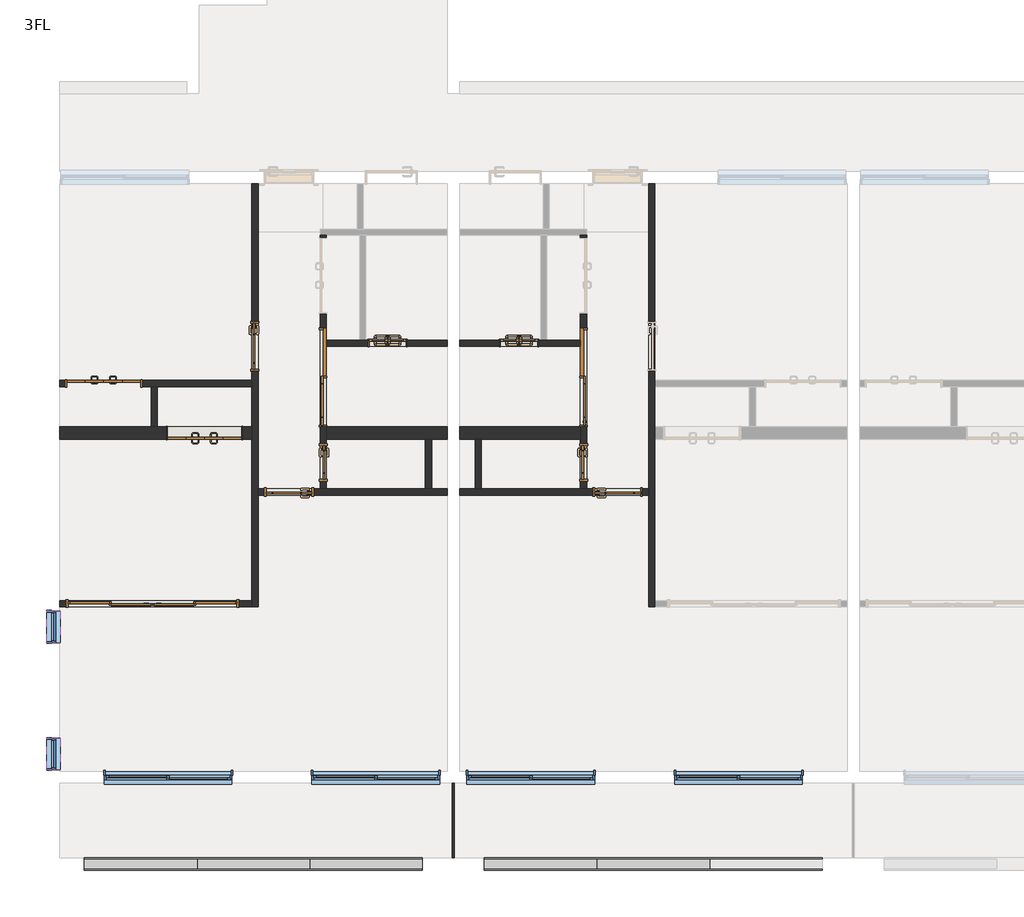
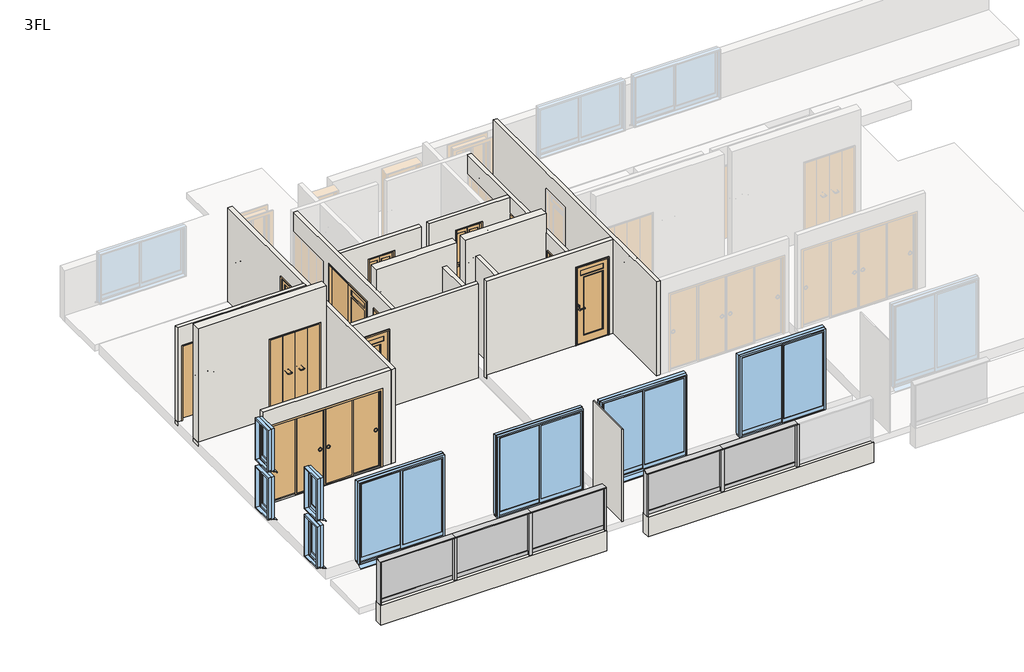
# One storey, part 1 of 3: 19 walls, 12 doors, 12 members, 8 windows, 5 plates.
"""IFC4 building model written with IfcOpenShell, lengths in millimetres."""

from ifc_helpers import new_model, si_unit, frame, origin, place, context, project, spatial, polyline, outline, extrude, faceted_brep, transform, mapped, element, save
from components import door_1200x2000_98cacc9b, door_1200x2000_6a144d60, door_1600x2000_09a7ee27, door_1600x2000_1f5bdc43, door_2800x2000_670b855b, door_600x2000_7f2747f4, door_600x2000_6a266bef, door_600x2000_8ea70a65, door_600x2000_94bb9c3c, door_800x2000_13e9f519, door_800x2000_ccb03061, member_25x150_3f8205e2, member_25x150_e252ec85, member_25x150_8b8be5b9, member_70x150_851c8a9b, plate_5aac5250, plate_977e9fc7, window_2000x2000_f1ff98da, window_450x1000_e0a5e2da, window_450x1000_1cddc73c

model = new_model("IFC4")

# Units and contexts
model_context = context("Model", 3, world=origin())
ifc_project = project(units=[si_unit("LENGTHUNIT", "METRE", prefix="MILLI")], contexts=[model_context])

# Site, building, storey
site = spatial("IfcSite", under=ifc_project)
building = spatial("IfcBuilding", under=site)
storey = spatial("IfcBuildingStorey", under=building, Name="3FL", Elevation=7000.0)

# Doors
placement = place(None, origin())
door_1200x2000_shape = door_1200x2000_98cacc9b(model_context)
element("IfcDoor", 1, ObjectType="木製折戸 : 1200x2000", at=placement, inside=storey, context=model_context, shape_type="MappedRepresentation", body=[
    mapped(door_1200x2000_shape, transform((-8741.2187246, -9820.1171638, 7100.0), x_axis=(-1.0, 0.0, 0.0), y_axis=(0.0, -1.0, 0.0), z_axis=(0.0, 0.0, 1.0))),
])
door_1200x2000_2_shape = door_1200x2000_6a144d60(model_context)
element("IfcDoor", 2, ObjectType="木製折戸 : 1200x2000", at=placement, inside=storey, context=model_context, shape_type="MappedRepresentation", body=[
    mapped(door_1200x2000_2_shape, transform((-10366.2187246, -9020.1171638, 7000.0), x_axis=(1.0, 0.0, 0.0), y_axis=(0.0, 1.0, 0.0), z_axis=(0.0, 0.0, 1.0))),
])
door_1600x2000_shape = door_1600x2000_09a7ee27(model_context)
element("IfcDoor", 3, ObjectType="片引戸CL2017 : 1600x2000", at=placement, inside=storey, context=model_context, shape_type="MappedRepresentation", body=[
    mapped(door_1600x2000_shape, transform((-6828.7187246, -8920.1171638, 7100.0), x_axis=(0.0, -1.0, 0.0), y_axis=(1.0, 0.0, 0.0), z_axis=(0.0, 0.0, 1.0))),
])
door_1600x2000_2_shape = door_1600x2000_1f5bdc43(model_context)
element("IfcDoor", 4, ObjectType="片引戸CL2017 : 1600x2000", at=placement, inside=storey, context=model_context, shape_type="MappedRepresentation", body=[
    mapped(door_1600x2000_2_shape, transform((-2628.7187246, -8920.1171638, 7100.0), x_axis=(0.0, -1.0, 0.0), y_axis=(1.0, 0.0, 0.0), z_axis=(0.0, 0.0, 1.0))),
])
door_2800x2000_shape = door_2800x2000_670b855b(model_context)
element("IfcDoor", 5, ObjectType="引違い 4 枚 2 溝_襖 : 2800x2000", at=placement, inside=storey, context=model_context, shape_type="MappedRepresentation", body=[
    mapped(door_2800x2000_shape, transform((-9573.1832207, -12570.1171638, 7100.0), x_axis=(1.0, 0.0, 0.0), y_axis=(0.0, 1.0, 0.0), z_axis=(0.0, 0.0, 1.0))),
])
door_600x2000_shape = door_600x2000_7f2747f4(model_context)
element("IfcDoor", 6, ObjectType="片開き戸CL2058 : 600x2000", at=placement, inside=storey, context=model_context, shape_type="MappedRepresentation", body=[
    mapped(door_600x2000_shape, transform((-6828.7187246, -10295.1171638, 7100.0), x_axis=(0.0, -1.0, 0.0), y_axis=(1.0, 0.0, 0.0), z_axis=(0.0, 0.0, 1.0))),
])
door_600x2000_2_shape = door_600x2000_6a266bef(model_context)
element("IfcDoor", 7, ObjectType="浴室折戸 : 600x2000", at=placement, inside=storey, context=model_context, shape_type="MappedRepresentation", body=[
    mapped(door_600x2000_2_shape, transform((-5788.7187246, -8370.1171638, 7100.0), x_axis=(1.0, 0.0, 0.0), y_axis=(0.0, 1.0, 0.0), z_axis=(0.0, 0.0, 1.0))),
])
door_600x2000_3_shape = door_600x2000_8ea70a65(model_context)
element("IfcDoor", 8, ObjectType="片開き戸CL2058 : 600x2000", at=placement, inside=storey, context=model_context, shape_type="MappedRepresentation", body=[
    mapped(door_600x2000_3_shape, transform((-2628.7187246, -10295.1171638, 7100.0), x_axis=(0.0, -1.0, 0.0), y_axis=(1.0, 0.0, 0.0), z_axis=(0.0, 0.0, 1.0))),
])
door_600x2000_4_shape = door_600x2000_94bb9c3c(model_context)
element("IfcDoor", 9, ObjectType="浴室折戸 : 600x2000", at=placement, inside=storey, context=model_context, shape_type="MappedRepresentation", body=[
    mapped(door_600x2000_4_shape, transform((-3668.7187246, -8370.1171638, 7100.0), x_axis=(-1.0, 0.0, 0.0), y_axis=(0.0, -1.0, 0.0), z_axis=(0.0, 0.0, 1.0))),
])
door_800x2000_shape = door_800x2000_13e9f519(model_context)
element("IfcDoor", 10, ObjectType="片開き戸CL2058 : 800x2000", at=placement, inside=storey, context=model_context, shape_type="MappedRepresentation", body=[
    mapped(door_800x2000_shape, transform((-7928.7187246, -8420.1171638, 7100.0), x_axis=(0.0, -1.0, 0.0), y_axis=(1.0, 0.0, 0.0), z_axis=(0.0, 0.0, 1.0))),
])
element("IfcDoor", 11, ObjectType="片開き戸CL2058 : 800x2000", at=placement, inside=storey, context=model_context, shape_type="MappedRepresentation", body=[
    mapped(door_800x2000_shape, transform((-2078.7187246, -10770.1171638, 7100.0), x_axis=(1.0, 0.0, 0.0), y_axis=(0.0, 1.0, 0.0), z_axis=(0.0, 0.0, 1.0))),
])
door_800x2000_2_shape = door_800x2000_ccb03061(model_context)
element("IfcDoor", 12, ObjectType="片開き戸CL2058 : 800x2000", at=placement, inside=storey, context=model_context, shape_type="MappedRepresentation", body=[
    mapped(door_800x2000_2_shape, transform((-7378.7187246, -10770.1171638, 7100.0), x_axis=(-1.0, 0.0, 0.0), y_axis=(0.0, -1.0, 0.0), z_axis=(0.0, 0.0, 1.0))),
])

# Members
member_25x150_shape = member_25x150_3f8205e2(model_context)
element("IfcMember", 13, ObjectType="長方形のマリオン : 25x150", at=placement, inside=storey, context=model_context, shape_type="MappedRepresentation", body=[
    mapped(member_25x150_shape, transform((-5228.7187246, -16770.1171638, 7000.0), x_axis=(1.0, 0.0, 0.0), y_axis=(0.0, -1.0, 0.0), z_axis=(0.0, 0.0, -1.0))),
])
element("IfcMember", 14, ObjectType="長方形のマリオン : 25x150", at=placement, inside=storey, context=model_context, shape_type="MappedRepresentation", body=[
    mapped(member_25x150_shape, transform((-10678.7187246, -16770.1171638, 8075.0), x_axis=(-1.0, 0.0, 0.0), y_axis=(0.0, -1.0, 0.0), z_axis=(0.0, 0.0, 1.0))),
])
element("IfcMember", 15, ObjectType="長方形のマリオン : 25x150", at=placement, inside=storey, context=model_context, shape_type="MappedRepresentation", body=[
    mapped(member_25x150_shape, transform((-4228.7187246, -16770.1171638, 8075.0), x_axis=(-1.0, 0.0, 0.0), y_axis=(0.0, -1.0, 0.0), z_axis=(0.0, 0.0, 1.0))),
])
member_25x150_2_shape = member_25x150_e252ec85(model_context)
element("IfcMember", 16, ObjectType="長方形のマリオン : 25x150", at=placement, inside=storey, context=model_context, shape_type="MappedRepresentation", body=[
    mapped(member_25x150_2_shape, transform((-5228.7187246, -16770.1171638, 8100.0), x_axis=(0.0, 0.0, 1.0), y_axis=(0.0, -1.0, 0.0), z_axis=(1.0, 0.0, 0.0))),
])
element("IfcMember", 17, ObjectType="長方形のマリオン : 25x150", at=placement, inside=storey, context=model_context, shape_type="MappedRepresentation", body=[
    mapped(member_25x150_2_shape, transform((-8862.0520579, -16770.1171638, 8100.0), x_axis=(0.0, 0.0, 1.0), y_axis=(0.0, -1.0, 0.0), z_axis=(1.0, 0.0, 0.0))),
])
element("IfcMember", 18, ObjectType="長方形のマリオン : 25x150", at=placement, inside=storey, context=model_context, shape_type="MappedRepresentation", body=[
    mapped(member_25x150_2_shape, transform((-2412.0520579, -16770.1171638, 8100.0), x_axis=(0.0, 0.0, 1.0), y_axis=(0.0, -1.0, 0.0), z_axis=(1.0, 0.0, 0.0))),
])
member_25x150_3_shape = member_25x150_8b8be5b9(model_context)
element("IfcMember", 19, ObjectType="長方形のマリオン : 25x150", at=placement, inside=storey, context=model_context, shape_type="MappedRepresentation", body=[
    mapped(member_25x150_3_shape, transform((-7045.3853914, -16770.1171638, 8100.0), x_axis=(0.0, 0.0, 1.0), y_axis=(0.0, -1.0, 0.0), z_axis=(1.0, 0.0, 0.0))),
])
element("IfcMember", 20, ObjectType="長方形のマリオン : 25x150", at=placement, inside=storey, context=model_context, shape_type="MappedRepresentation", body=[
    mapped(member_25x150_3_shape, transform((-595.3853914, -16770.1171638, 8100.0), x_axis=(0.0, 0.0, 1.0), y_axis=(0.0, -1.0, 0.0), z_axis=(1.0, 0.0, 0.0))),
])
member_70x150_shape = member_70x150_851c8a9b(model_context)
element("IfcMember", 21, ObjectType="長方形のマリオン : 70x150", at=placement, inside=storey, context=model_context, shape_type="MappedRepresentation", body=[
    mapped(member_70x150_shape, transform((-8862.0520579, -16770.1171638, 7000.0), x_axis=(1.0, 0.0, 0.0), y_axis=(0.0, -1.0, 0.0), z_axis=(0.0, 0.0, -1.0))),
])
element("IfcMember", 22, ObjectType="長方形のマリオン : 70x150", at=placement, inside=storey, context=model_context, shape_type="MappedRepresentation", body=[
    mapped(member_70x150_shape, transform((-7045.3853914, -16770.1171638, 7000.0), x_axis=(1.0, 0.0, 0.0), y_axis=(0.0, -1.0, 0.0), z_axis=(0.0, 0.0, -1.0))),
])
element("IfcMember", 23, ObjectType="長方形のマリオン : 70x150", at=placement, inside=storey, context=model_context, shape_type="MappedRepresentation", body=[
    mapped(member_70x150_shape, transform((-2412.0520579, -16770.1171638, 7000.0), x_axis=(1.0, 0.0, 0.0), y_axis=(0.0, -1.0, 0.0), z_axis=(0.0, 0.0, -1.0))),
])
element("IfcMember", 24, ObjectType="長方形のマリオン : 70x150", at=placement, inside=storey, context=model_context, shape_type="MappedRepresentation", body=[
    mapped(member_70x150_shape, transform((-595.3853914, -16770.1171638, 7000.0), x_axis=(1.0, 0.0, 0.0), y_axis=(0.0, -1.0, 0.0), z_axis=(0.0, 0.0, -1.0))),
])

# Plates
plate_shape = plate_5aac5250(model_context)
element("IfcPlate", 25, ObjectType="r パネル FIX 下框付 : 框 H100", at=placement, inside=storey, context=model_context, shape_type="MappedRepresentation", body=[
    mapped(plate_shape, transform((-9775.3853913, -16770.1171638, 7000.0), x_axis=(1.0, 0.0, 0.0), y_axis=(0.0, 1.0, 0.0), z_axis=(0.0, 0.0, 1.0))),
])
element("IfcPlate", 26, ObjectType="r パネル FIX 下框付 : 框 H100", at=placement, inside=storey, context=model_context, shape_type="MappedRepresentation", body=[
    mapped(plate_shape, transform((-6132.052058, -16770.1171638, 7000.0), x_axis=(1.0, 0.0, 0.0), y_axis=(0.0, 1.0, 0.0), z_axis=(0.0, 0.0, 1.0))),
])
element("IfcPlate", 27, ObjectType="r パネル FIX 下框付 : 框 H100", at=placement, inside=storey, context=model_context, shape_type="MappedRepresentation", body=[
    mapped(plate_shape, transform((-3325.3853913, -16770.1171638, 7000.0), x_axis=(1.0, 0.0, 0.0), y_axis=(0.0, 1.0, 0.0), z_axis=(0.0, 0.0, 1.0))),
])
plate_2_shape = plate_977e9fc7(model_context)
element("IfcPlate", 28, ObjectType="r パネル FIX 下框付 : 框 H100", at=placement, inside=storey, context=model_context, shape_type="MappedRepresentation", body=[
    mapped(plate_2_shape, transform((-7953.7187246, -16770.1171638, 7000.0), x_axis=(1.0, 0.0, 0.0), y_axis=(0.0, 1.0, 0.0), z_axis=(0.0, 0.0, 1.0))),
])
element("IfcPlate", 29, ObjectType="r パネル FIX 下框付 : 框 H100", at=placement, inside=storey, context=model_context, shape_type="MappedRepresentation", body=[
    mapped(plate_2_shape, transform((-1503.7187246, -16770.1171638, 7000.0), x_axis=(1.0, 0.0, 0.0), y_axis=(0.0, 1.0, 0.0), z_axis=(0.0, 0.0, 1.0))),
])

# Walls
element("IfcWall", 30, ObjectType="(R)RC200", at=placement, inside=storey, context=model_context, shape_type="Brep", body=[
    faceted_brep([(-11078.7187246, -9920.1171638, 7000.0), (-7978.7187246, -9920.1171638, 7000.0), (-7978.7187246, -9920.1171638, 10000.0), (-11078.7187246, -9920.1171638, 10000.0), (-9361.2187246, -9920.1171638, 9120.0), (-8121.2187246, -9920.1171638, 9120.0), (-8121.2187246, -9920.1171638, 7100.0), (-9361.2187246, -9920.1171638, 7100.0), (-11078.7187246, -9720.1171638, 7000.0), (-11078.7187246, -9720.1171638, 10000.0), (-7978.7187246, -9720.1171638, 10000.0), (-7978.7187246, -9720.1171638, 7000.0), (-9503.7187246, -9720.1171638, 7000.0), (-9603.7187246, -9720.1171638, 7000.0), (-9361.2187246, -9720.1171638, 9120.0), (-9361.2187246, -9720.1171638, 7100.0), (-8121.2187246, -9720.1171638, 7100.0), (-8121.2187246, -9720.1171638, 9120.0)], [[[0, 1, 2, 3], [4, 5, 6, 7]], [[8, 9, 10, 11, 12, 13], [14, 15, 16, 17]], [[1, 0, 8, 13, 12, 11]], [[3, 2, 10, 9]], [[2, 1, 11, 10]], [[15, 14, 4, 7]], [[16, 15, 7, 6]], [[17, 16, 6, 5]], [[14, 17, 5, 4]], [[0, 3, 9, 8]]]),
])
element("IfcWall", 31, ObjectType="(R)RC200", at=placement, inside=storey, context=model_context, shape_type="Brep", body=[
    faceted_brep([(-6778.7187246, -9920.1171638, 7000.0), (-5178.7187246, -9920.1171638, 7000.0), (-5078.7187246, -9920.1171638, 7000.0), (-4828.7187246, -9920.1171638, 7000.0), (-4828.7187246, -9920.1171638, 10000.0), (-6778.7187246, -9920.1171638, 10000.0), (-6778.7187246, -9720.1171638, 7000.0), (-6778.7187246, -9720.1171638, 7100.0), (-6778.7187246, -9720.1171638, 9100.0), (-6778.7187246, -9720.1171638, 10000.0), (-4828.7187246, -9720.1171638, 10000.0), (-4828.7187246, -9720.1171638, 7000.0)], [[[0, 1, 2, 3, 4, 5]], [[6, 7, 8, 9, 10, 11]], [[3, 2, 1, 0, 6, 11]], [[5, 4, 10, 9]], [[0, 5, 9, 8, 7, 6]], [[4, 3, 11, 10]]]),
])
element("IfcWall", 32, ObjectType="(R)RC200", at=placement, inside=storey, context=model_context, shape_type="Brep", body=[
    faceted_brep([(-2678.7187246, -9720.1171638, 7000.0), (-4628.7187246, -9720.1171638, 7000.0), (-4628.7187246, -9720.1171638, 10000.0), (-2678.7187246, -9720.1171638, 10000.0), (-2678.7187246, -9720.1171638, 9100.0), (-2678.7187246, -9720.1171638, 7100.0), (-2678.7187246, -9920.1171638, 7000.0), (-2678.7187246, -9920.1171638, 10000.0), (-4628.7187246, -9920.1171638, 10000.0), (-4628.7187246, -9920.1171638, 7000.0), (-4378.7187246, -9920.1171638, 7000.0), (-4278.7187246, -9920.1171638, 7000.0)], [[[0, 1, 2, 3, 4, 5]], [[6, 7, 8, 9, 10, 11]], [[1, 0, 6, 11, 10, 9]], [[3, 2, 8, 7]], [[0, 5, 4, 3, 7, 6]], [[2, 1, 9, 8]]]),
])
element("IfcWall", 33, ObjectType="(R)RC200", at=placement, inside=storey, context=model_context, shape_type="SweptSolid", body=[
    extrude(outline(polyline([(-5228.7187246, -16870.1171638), (-10678.7187246, -16870.1171638), (-10678.7187246, -16670.1171638), (-5228.7187246, -16670.1171638), (-5228.7187246, -16870.1171638)])), frame((0.0, 0.0, 6500.0), z_axis=(0.0, 0.0, 1.0), x_axis=(1.0, 0.0, 0.0)), (0.0, 0.0, 1.0), 500.0),
])
element("IfcWall", 34, ObjectType="(R)RC200", at=placement, inside=storey, context=model_context, shape_type="SweptSolid", body=[
    extrude(outline(polyline([(1221.2812754, -16870.1171638), (-4228.7187246, -16870.1171638), (-4228.7187246, -16670.1171638), (1221.2812754, -16670.1171638), (1221.2812754, -16870.1171638)])), frame((0.0, 0.0, 6500.0), z_axis=(0.0, 0.0, 1.0), x_axis=(1.0, 0.0, 0.0)), (0.0, 0.0, 1.0), 500.0),
])
element("IfcWall", 35, ObjectType="(F)30", at=placement, inside=storey, context=model_context, shape_type="SweptSolid", body=[
    extrude(outline(polyline([(-4743.7187246, -16670.1171638), (-4743.7187246, -15470.1171638), (-4713.7187246, -15470.1171638), (-4713.7187246, -16670.1171638), (-4743.7187246, -16670.1171638)])), frame((0.0, 0.0, 6950.0), z_axis=(0.0, 0.0, 1.0), x_axis=(1.0, 0.0, 0.0)), (0.0, 0.0, 1.0), 2350.0),
])
element("IfcWall", 36, ObjectType="(L1)LGS100", at=placement, inside=storey, context=model_context, shape_type="Brep", body=[
    faceted_brep([(-7878.7187246, -12620.1171638, 7000.0), (-7878.7187246, -10820.1171638, 7000.0), (-7878.7187246, -10720.1171638, 7000.0), (-7878.7187246, -5800.1171638, 7000.0), (-7878.7187246, -5800.1171638, 9500.0), (-7878.7187246, -10720.1171638, 9500.0), (-7878.7187246, -10820.1171638, 9500.0), (-7878.7187246, -12620.1171638, 9500.0), (-7878.7187246, -8820.1171638, 7100.0), (-7878.7187246, -8820.1171638, 9100.0), (-7878.7187246, -8020.1171638, 9100.0), (-7878.7187246, -8020.1171638, 7100.0), (-7978.7187246, -12620.1171638, 7000.0), (-7978.7187246, -12620.1171638, 9500.0), (-7978.7187246, -12520.1171638, 9500.0), (-7978.7187246, -9070.1171638, 9500.0), (-7978.7187246, -8970.1171638, 9500.0), (-7978.7187246, -5800.1171638, 9500.0), (-7978.7187246, -5800.1171638, 7000.0), (-7978.7187246, -8970.1171638, 7000.0), (-7978.7187246, -9070.1171638, 7000.0), (-7978.7187246, -9720.1171638, 7000.0), (-7978.7187246, -9920.1171638, 7000.0), (-7978.7187246, -12520.1171638, 7000.0), (-7978.7187246, -8820.1171638, 7100.0), (-7978.7187246, -8020.1171638, 7100.0), (-7978.7187246, -8020.1171638, 9100.0), (-7978.7187246, -8820.1171638, 9100.0)], [[[0, 1, 2, 3, 4, 5, 6, 7], [8, 9, 10, 11]], [[12, 13, 14, 15, 16, 17, 18, 19, 20, 21, 22, 23], [24, 25, 26, 27]], [[3, 2, 1, 0, 12, 23, 22, 21, 20, 19, 18]], [[7, 6, 5, 4, 17, 16, 15, 14, 13]], [[0, 7, 13, 12]], [[9, 8, 24, 27]], [[10, 9, 27, 26]], [[11, 10, 26, 25]], [[8, 11, 25, 24]], [[4, 3, 18, 17]]]),
])
element("IfcWall", 37, ObjectType="(L1)LGS100", at=placement, inside=storey, context=model_context, shape_type="Brep", body=[
    faceted_brep([(-6778.7187246, -6630.1171638, 9500.0), (-6778.7187246, -8320.1171638, 9500.0), (-6778.7187246, -8420.1171638, 9500.0), (-6778.7187246, -10720.1171638, 9500.0), (-6778.7187246, -10720.1171638, 7000.0), (-6778.7187246, -9920.1171638, 7000.0), (-6778.7187246, -9720.1171638, 7000.0), (-6778.7187246, -8420.1171638, 7000.0), (-6778.7187246, -8320.1171638, 7000.0), (-6778.7187246, -7900.1171638, 7000.0), (-6778.7187246, -7900.1171638, 9020.0), (-6778.7187246, -6660.1171638, 9020.0), (-6778.7187246, -6660.1171638, 7000.0), (-6778.7187246, -6630.1171638, 7000.0), (-6778.7187246, -10595.1171638, 7100.0), (-6778.7187246, -10595.1171638, 9100.0), (-6778.7187246, -9995.1171638, 9100.0), (-6778.7187246, -9995.1171638, 7100.0), (-6778.7187246, -9720.1171638, 7100.0), (-6778.7187246, -9720.1171638, 9100.0), (-6778.7187246, -8120.1171638, 9100.0), (-6778.7187246, -8120.1171638, 7100.0), (-6878.7187246, -10720.1171638, 9500.0), (-6878.7187246, -6630.1171638, 9500.0), (-6878.7187246, -6630.1171638, 7000.0), (-6878.7187246, -6660.1171638, 7000.0), (-6878.7187246, -6660.1171638, 9020.0), (-6878.7187246, -7900.1171638, 9020.0), (-6878.7187246, -7900.1171638, 7000.0), (-6878.7187246, -10720.1171638, 7000.0), (-6878.7187246, -10595.1171638, 7100.0), (-6878.7187246, -9995.1171638, 7100.0), (-6878.7187246, -9995.1171638, 9100.0), (-6878.7187246, -10595.1171638, 9100.0), (-6878.7187246, -9720.1171638, 9100.0), (-6878.7187246, -9720.1171638, 7100.0), (-6878.7187246, -8120.1171638, 7100.0), (-6878.7187246, -8120.1171638, 9100.0)], [[[0, 1, 2, 3, 4, 5, 6, 7, 8, 9, 10, 11, 12, 13], [14, 15, 16, 17], [18, 19, 20, 21]], [[22, 23, 24, 25, 26, 27, 28, 29], [30, 31, 32, 33], [34, 35, 36, 37]], [[4, 29, 28, 9, 8, 7, 6, 5]], [[24, 13, 12, 25]], [[3, 2, 1, 0, 23, 22]], [[4, 3, 22, 29]], [[0, 13, 24, 23]], [[15, 14, 30, 33]], [[16, 15, 33, 32]], [[17, 16, 32, 31]], [[14, 17, 31, 30]], [[18, 35, 34, 19]], [[19, 34, 37, 20]], [[20, 37, 36, 21]], [[35, 18, 21, 36]], [[12, 11, 26, 25]], [[10, 9, 28, 27]], [[11, 10, 27, 26]]]),
])
element("IfcWall", 38, ObjectType="(L1)LGS100", at=placement, inside=storey, context=model_context, shape_type="Brep", body=[
    faceted_brep([(-6778.7187246, -8420.1171638, 7000.0), (-4828.7187246, -8420.1171638, 7000.0), (-4828.7187246, -8420.1171638, 9500.0), (-6778.7187246, -8420.1171638, 9500.0), (-5468.7187246, -8420.1171638, 9120.0), (-5468.7187246, -8420.1171638, 7100.0), (-6108.7187246, -8420.1171638, 7100.0), (-6108.7187246, -8420.1171638, 9120.0), (-6778.7187246, -8320.1171638, 7000.0), (-6778.7187246, -8320.1171638, 9500.0), (-6238.7187246, -8320.1171638, 9500.0), (-6138.7187246, -8320.1171638, 9500.0), (-4828.7187246, -8320.1171638, 9500.0), (-4828.7187246, -8320.1171638, 7000.0), (-6138.7187246, -8320.1171638, 7000.0), (-6238.7187246, -8320.1171638, 7000.0), (-5468.7187246, -8320.1171638, 9120.0), (-6108.7187246, -8320.1171638, 9120.0), (-6108.7187246, -8320.1171638, 7100.0), (-5468.7187246, -8320.1171638, 7100.0)], [[[0, 1, 2, 3], [4, 5, 6, 7]], [[8, 9, 10, 11, 12, 13, 14, 15], [16, 17, 18, 19]], [[1, 0, 8, 15, 14, 13]], [[3, 2, 12, 11, 10, 9]], [[0, 3, 9, 8]], [[5, 4, 16, 19]], [[6, 5, 19, 18]], [[7, 6, 18, 17]], [[4, 7, 17, 16]], [[2, 1, 13, 12]]]),
])
element("IfcWall", 39, ObjectType="(L1)LGS100", at=placement, inside=storey, context=model_context, shape_type="Brep", body=[
    faceted_brep([(-7878.7187246, -10820.1171638, 7000.0), (-4828.7187246, -10820.1171638, 7000.0), (-4828.7187246, -10820.1171638, 9500.0), (-7878.7187246, -10820.1171638, 9500.0), (-7778.7187246, -10820.1171638, 7100.0), (-7778.7187246, -10820.1171638, 9100.0), (-6978.7187246, -10820.1171638, 9100.0), (-6978.7187246, -10820.1171638, 7100.0), (-7878.7187246, -10720.1171638, 7000.0), (-7878.7187246, -10720.1171638, 9500.0), (-6878.7187246, -10720.1171638, 9500.0), (-6778.7187246, -10720.1171638, 9500.0), (-5178.7187246, -10720.1171638, 9500.0), (-5078.7187246, -10720.1171638, 9500.0), (-4828.7187246, -10720.1171638, 9500.0), (-4828.7187246, -10720.1171638, 7000.0), (-5078.7187246, -10720.1171638, 7000.0), (-5178.7187246, -10720.1171638, 7000.0), (-6778.7187246, -10720.1171638, 7000.0), (-6878.7187246, -10720.1171638, 7000.0), (-7778.7187246, -10720.1171638, 7100.0), (-6978.7187246, -10720.1171638, 7100.0), (-6978.7187246, -10720.1171638, 9100.0), (-7778.7187246, -10720.1171638, 9100.0)], [[[0, 1, 2, 3], [4, 5, 6, 7]], [[8, 9, 10, 11, 12, 13, 14, 15, 16, 17, 18, 19], [20, 21, 22, 23]], [[1, 0, 8, 19, 18, 17, 16, 15]], [[3, 2, 14, 13, 12, 11, 10, 9]], [[0, 3, 9, 8]], [[5, 4, 20, 23]], [[6, 5, 23, 22]], [[7, 6, 22, 21]], [[4, 7, 21, 20]], [[2, 1, 15, 14]]]),
])
element("IfcWall", 40, ObjectType="(L1)LGS100", at=placement, inside=storey, context=model_context, shape_type="SweptSolid", body=[
    extrude(outline(polyline([(-5078.7187246, -9920.1171638), (-5078.7187246, -10720.1171638), (-5178.7187246, -10720.1171638), (-5178.7187246, -9920.1171638), (-5078.7187246, -9920.1171638)])), frame((0.0, 0.0, 7000.0), z_axis=(0.0, 0.0, 1.0), x_axis=(1.0, 0.0, 0.0)), (0.0, 0.0, 1.0), 2500.0),
])
element("IfcWall", 41, ObjectType="(L1)LGS100", at=placement, inside=storey, context=model_context, shape_type="Brep", body=[
    faceted_brep([(-11078.7187246, -9070.1171638, 7000.0), (-10986.2187246, -9070.1171638, 7000.0), (-10986.2187246, -9070.1171638, 9020.0), (-9746.2187246, -9070.1171638, 9020.0), (-9746.2187246, -9070.1171638, 7000.0), (-9603.7187246, -9070.1171638, 7000.0), (-9503.7187246, -9070.1171638, 7000.0), (-7978.7187246, -9070.1171638, 7000.0), (-7978.7187246, -9070.1171638, 9500.0), (-9503.7187246, -9070.1171638, 9500.0), (-9603.7187246, -9070.1171638, 9500.0), (-11078.7187246, -9070.1171638, 9500.0), (-10986.2187246, -8970.1171638, 9020.0), (-10986.2187246, -8970.1171638, 7000.0), (-11078.7187246, -8970.1171638, 7000.0), (-11078.7187246, -8970.1171638, 9500.0), (-7978.7187246, -8970.1171638, 9500.0), (-7978.7187246, -8970.1171638, 7000.0), (-9746.2187246, -8970.1171638, 7000.0), (-9746.2187246, -8970.1171638, 9020.0)], [[[0, 1, 2, 3, 4, 5, 6, 7, 8, 9, 10, 11]], [[12, 13, 14, 15, 16, 17, 18, 19]], [[18, 17, 7, 6, 5, 4]], [[14, 13, 1, 0]], [[11, 10, 9, 8, 16, 15]], [[8, 7, 17, 16]], [[4, 3, 19, 18]], [[2, 1, 13, 12]], [[3, 2, 12, 19]], [[0, 11, 15, 14]]]),
])
element("IfcWall", 42, ObjectType="(L1)LGS100", at=placement, inside=storey, context=model_context, shape_type="SweptSolid", body=[
    extrude(outline(polyline([(-9503.7187246, -9070.1171638), (-9503.7187246, -9720.1171638), (-9603.7187246, -9720.1171638), (-9603.7187246, -9070.1171638), (-9503.7187246, -9070.1171638)])), frame((0.0, 0.0, 7000.0), z_axis=(0.0, 0.0, 1.0), x_axis=(1.0, 0.0, 0.0)), (0.0, 0.0, 1.0), 2500.0),
])
element("IfcWall", 43, ObjectType="(L1)LGS100", at=placement, inside=storey, context=model_context, shape_type="SweptSolid", body=[
    extrude(outline(polyline([(7000.0, -11078.7187246), (7000.0, -7978.7187246), (9500.0, -7978.7187246), (9500.0, -11078.7187246), (7000.0, -11078.7187246)]), holes=[polyline([(9100.0, -8178.7187246), (7100.0, -8178.7187246), (7100.0, -10978.7187246), (9100.0, -10978.7187246), (9100.0, -8178.7187246)])]), frame((0.0, -12620.1171638, 0.0), z_axis=(0.0, 1.0, 0.0), x_axis=(0.0, 0.0, 1.0)), (0.0, 0.0, 1.0), 100.0),
])
element("IfcWall", 44, ObjectType="(L1)LGS100", at=placement, inside=storey, context=model_context, shape_type="Brep", body=[
    faceted_brep([(-1478.7187246, -12620.1171638, 7000.0), (-1478.7187246, -12520.1171638, 7000.0), (-1478.7187246, -9920.1171638, 7000.0), (-1478.7187246, -9720.1171638, 7000.0), (-1478.7187246, -9070.1171638, 7000.0), (-1478.7187246, -8970.1171638, 7000.0), (-1478.7187246, -5800.1171638, 7000.0), (-1478.7187246, -5800.1171638, 9500.0), (-1478.7187246, -8970.1171638, 9500.0), (-1478.7187246, -9070.1171638, 9500.0), (-1478.7187246, -12520.1171638, 9500.0), (-1478.7187246, -12620.1171638, 9500.0), (-1478.7187246, -8820.1171638, 7100.0), (-1478.7187246, -8820.1171638, 9100.0), (-1478.7187246, -8020.1171638, 9100.0), (-1478.7187246, -8020.1171638, 7100.0), (-1578.7187246, -12620.1171638, 7000.0), (-1578.7187246, -12620.1171638, 9500.0), (-1578.7187246, -10820.1171638, 9500.0), (-1578.7187246, -10720.1171638, 9500.0), (-1578.7187246, -5800.1171638, 9500.0), (-1578.7187246, -5800.1171638, 7000.0), (-1578.7187246, -10720.1171638, 7000.0), (-1578.7187246, -10820.1171638, 7000.0), (-1578.7187246, -8820.1171638, 7100.0), (-1578.7187246, -8020.1171638, 7100.0), (-1578.7187246, -8020.1171638, 9100.0), (-1578.7187246, -8820.1171638, 9100.0)], [[[0, 1, 2, 3, 4, 5, 6, 7, 8, 9, 10, 11], [12, 13, 14, 15]], [[16, 17, 18, 19, 20, 21, 22, 23], [24, 25, 26, 27]], [[6, 5, 4, 3, 2, 1, 0, 16, 23, 22, 21]], [[11, 10, 9, 8, 7, 20, 19, 18, 17]], [[13, 12, 24, 27]], [[14, 13, 27, 26]], [[15, 14, 26, 25]], [[12, 15, 25, 24]], [[0, 11, 17, 16]], [[7, 6, 21, 20]]]),
])
element("IfcWall", 45, ObjectType="(L1)LGS100", at=placement, inside=storey, context=model_context, shape_type="Brep", body=[
    faceted_brep([(-2578.7187246, -6630.1171638, 9500.0), (-2578.7187246, -10720.1171638, 9500.0), (-2578.7187246, -10720.1171638, 7000.0), (-2578.7187246, -7900.1171638, 7000.0), (-2578.7187246, -7900.1171638, 9020.0), (-2578.7187246, -6660.1171638, 9020.0), (-2578.7187246, -6660.1171638, 7000.0), (-2578.7187246, -6630.1171638, 7000.0), (-2578.7187246, -10595.1171638, 7100.0), (-2578.7187246, -10595.1171638, 9100.0), (-2578.7187246, -9995.1171638, 9100.0), (-2578.7187246, -9995.1171638, 7100.0), (-2578.7187246, -9720.1171638, 7100.0), (-2578.7187246, -9720.1171638, 9100.0), (-2578.7187246, -8120.1171638, 9100.0), (-2578.7187246, -8120.1171638, 7100.0), (-2678.7187246, -10720.1171638, 9500.0), (-2678.7187246, -8420.1171638, 9500.0), (-2678.7187246, -8320.1171638, 9500.0), (-2678.7187246, -6630.1171638, 9500.0), (-2678.7187246, -6630.1171638, 7000.0), (-2678.7187246, -6660.1171638, 7000.0), (-2678.7187246, -6660.1171638, 9020.0), (-2678.7187246, -7900.1171638, 9020.0), (-2678.7187246, -7900.1171638, 7000.0), (-2678.7187246, -8320.1171638, 7000.0), (-2678.7187246, -8420.1171638, 7000.0), (-2678.7187246, -9720.1171638, 7000.0), (-2678.7187246, -9920.1171638, 7000.0), (-2678.7187246, -10720.1171638, 7000.0), (-2678.7187246, -10595.1171638, 7100.0), (-2678.7187246, -9995.1171638, 7100.0), (-2678.7187246, -9995.1171638, 9100.0), (-2678.7187246, -10595.1171638, 9100.0), (-2678.7187246, -9720.1171638, 9100.0), (-2678.7187246, -9720.1171638, 7100.0), (-2678.7187246, -8120.1171638, 7100.0), (-2678.7187246, -8120.1171638, 9100.0)], [[[0, 1, 2, 3, 4, 5, 6, 7], [8, 9, 10, 11], [12, 13, 14, 15]], [[16, 17, 18, 19, 20, 21, 22, 23, 24, 25, 26, 27, 28, 29], [30, 31, 32, 33], [34, 35, 36, 37]], [[6, 21, 20, 7]], [[24, 3, 2, 29, 28, 27, 26, 25]], [[1, 0, 19, 18, 17, 16]], [[9, 8, 30, 33]], [[10, 9, 33, 32]], [[11, 10, 32, 31]], [[8, 11, 31, 30]], [[12, 35, 34, 13]], [[13, 34, 37, 14]], [[14, 37, 36, 15]], [[35, 12, 15, 36]], [[6, 5, 22, 21]], [[4, 3, 24, 23]], [[5, 4, 23, 22]], [[2, 1, 16, 29]], [[0, 7, 20, 19]]]),
])
element("IfcWall", 46, ObjectType="(L1)LGS100", at=placement, inside=storey, context=model_context, shape_type="Brep", body=[
    faceted_brep([(-2678.7187246, -8320.1171638, 7000.0), (-3218.7187246, -8320.1171638, 7000.0), (-3318.7187246, -8320.1171638, 7000.0), (-4628.7187246, -8320.1171638, 7000.0), (-4628.7187246, -8320.1171638, 9500.0), (-3318.7187246, -8320.1171638, 9500.0), (-3218.7187246, -8320.1171638, 9500.0), (-2678.7187246, -8320.1171638, 9500.0), (-3988.7187246, -8320.1171638, 9120.0), (-3988.7187246, -8320.1171638, 7100.0), (-3348.7187246, -8320.1171638, 7100.0), (-3348.7187246, -8320.1171638, 9120.0), (-2678.7187246, -8420.1171638, 7000.0), (-2678.7187246, -8420.1171638, 9500.0), (-4628.7187246, -8420.1171638, 9500.0), (-4628.7187246, -8420.1171638, 7000.0), (-3988.7187246, -8420.1171638, 9120.0), (-3348.7187246, -8420.1171638, 9120.0), (-3348.7187246, -8420.1171638, 7100.0), (-3988.7187246, -8420.1171638, 7100.0)], [[[0, 1, 2, 3, 4, 5, 6, 7], [8, 9, 10, 11]], [[12, 13, 14, 15], [16, 17, 18, 19]], [[3, 2, 1, 0, 12, 15]], [[7, 6, 5, 4, 14, 13]], [[9, 8, 16, 19]], [[10, 9, 19, 18]], [[11, 10, 18, 17]], [[8, 11, 17, 16]], [[0, 7, 13, 12]], [[4, 3, 15, 14]]]),
])
element("IfcWall", 47, ObjectType="(L1)LGS100", at=placement, inside=storey, context=model_context, shape_type="Brep", body=[
    faceted_brep([(-1578.7187246, -10720.1171638, 7000.0), (-2578.7187246, -10720.1171638, 7000.0), (-2678.7187246, -10720.1171638, 7000.0), (-4278.7187246, -10720.1171638, 7000.0), (-4378.7187246, -10720.1171638, 7000.0), (-4628.7187246, -10720.1171638, 7000.0), (-4628.7187246, -10720.1171638, 9500.0), (-4378.7187246, -10720.1171638, 9500.0), (-4278.7187246, -10720.1171638, 9500.0), (-2678.7187246, -10720.1171638, 9500.0), (-2578.7187246, -10720.1171638, 9500.0), (-1578.7187246, -10720.1171638, 9500.0), (-1678.7187246, -10720.1171638, 7100.0), (-1678.7187246, -10720.1171638, 9100.0), (-2478.7187246, -10720.1171638, 9100.0), (-2478.7187246, -10720.1171638, 7100.0), (-1578.7187246, -10820.1171638, 7000.0), (-1578.7187246, -10820.1171638, 9500.0), (-4628.7187246, -10820.1171638, 9500.0), (-4628.7187246, -10820.1171638, 7000.0), (-1678.7187246, -10820.1171638, 7100.0), (-2478.7187246, -10820.1171638, 7100.0), (-2478.7187246, -10820.1171638, 9100.0), (-1678.7187246, -10820.1171638, 9100.0)], [[[0, 1, 2, 3, 4, 5, 6, 7, 8, 9, 10, 11], [12, 13, 14, 15]], [[16, 17, 18, 19], [20, 21, 22, 23]], [[5, 4, 3, 2, 1, 0, 16, 19]], [[11, 10, 9, 8, 7, 6, 18, 17]], [[13, 12, 20, 23]], [[14, 13, 23, 22]], [[15, 14, 22, 21]], [[12, 15, 21, 20]], [[0, 11, 17, 16]], [[6, 5, 19, 18]]]),
])
element("IfcWall", 48, ObjectType="(L1)LGS100", at=placement, inside=storey, context=model_context, shape_type="SweptSolid", body=[
    extrude(outline(polyline([(-4278.7187246, -9920.1171638), (-4278.7187246, -10720.1171638), (-4378.7187246, -10720.1171638), (-4378.7187246, -9920.1171638), (-4278.7187246, -9920.1171638)])), frame((0.0, 0.0, 7000.0), z_axis=(0.0, 0.0, 1.0), x_axis=(1.0, 0.0, 0.0)), (0.0, 0.0, 1.0), 2500.0),
])

# Windows
window_2000x2000_shape = window_2000x2000_f1ff98da(model_context)
element("IfcWindow", 49, ObjectType="鋼製_一般枠_引違い-二枚 : 2000x2000", at=placement, inside=storey, context=model_context, shape_type="MappedRepresentation", body=[
    mapped(window_2000x2000_shape, transform((-9328.7187246, -15370.1171638, 6200.0), x_axis=(-1.0, 0.0, 0.0), y_axis=(0.0, -1.0, 0.0), z_axis=(0.0, 0.0, 1.0))),
])
element("IfcWindow", 50, ObjectType="鋼製_一般枠_引違い-二枚 : 2000x2000", at=placement, inside=storey, context=model_context, shape_type="MappedRepresentation", body=[
    mapped(window_2000x2000_shape, transform((-5978.7187246, -15370.1171638, 6200.0), x_axis=(-1.0, 0.0, 0.0), y_axis=(0.0, -1.0, 0.0), z_axis=(0.0, 0.0, 1.0))),
])
element("IfcWindow", 51, ObjectType="鋼製_一般枠_引違い-二枚 : 2000x2000", at=placement, inside=storey, context=model_context, shape_type="MappedRepresentation", body=[
    mapped(window_2000x2000_shape, transform((-128.7187246, -15370.1171638, 6200.0), x_axis=(-1.0, 0.0, 0.0), y_axis=(0.0, -1.0, 0.0), z_axis=(0.0, 0.0, 1.0))),
])
element("IfcWindow", 52, ObjectType="鋼製_一般枠_引違い-二枚 : 2000x2000", at=placement, inside=storey, context=model_context, shape_type="MappedRepresentation", body=[
    mapped(window_2000x2000_shape, transform((-3478.7187246, -15370.1171638, 6200.0), x_axis=(-1.0, 0.0, 0.0), y_axis=(0.0, -1.0, 0.0), z_axis=(0.0, 0.0, 1.0))),
])
window_450x1000_shape = window_450x1000_e0a5e2da(model_context)
element("IfcWindow", 53, ObjectType="鋼製_一般枠_嵌殺し : 450x1000", at=placement, inside=storey, context=model_context, shape_type="MappedRepresentation", body=[
    mapped(window_450x1000_shape, transform((-11178.7187246, -14995.1171638, 6010.0), x_axis=(0.0, -1.0, 0.0), y_axis=(1.0, 0.0, 0.0), z_axis=(0.0, 0.0, 1.0))),
])
element("IfcWindow", 54, ObjectType="鋼製_一般枠_嵌殺し : 450x1000", at=placement, inside=storey, context=model_context, shape_type="MappedRepresentation", body=[
    mapped(window_450x1000_shape, transform((-11178.7187246, -12945.1171638, 6010.0), x_axis=(0.0, -1.0, 0.0), y_axis=(1.0, 0.0, 0.0), z_axis=(0.0, 0.0, 1.0))),
])
window_450x1000_2_shape = window_450x1000_1cddc73c(model_context)
element("IfcWindow", 55, ObjectType="鋼製_一般枠_嵌殺し : 450x1000", at=placement, inside=storey, context=model_context, shape_type="MappedRepresentation", body=[
    mapped(window_450x1000_2_shape, transform((-11178.7187246, -14995.1171638, 7230.0), x_axis=(0.0, 1.0, 0.0), y_axis=(-1.0, 0.0, 0.0), z_axis=(0.0, 0.0, 1.0))),
])
element("IfcWindow", 56, ObjectType="鋼製_一般枠_嵌殺し : 450x1000", at=placement, inside=storey, context=model_context, shape_type="MappedRepresentation", body=[
    mapped(window_450x1000_2_shape, transform((-11178.7187246, -12945.1171638, 7230.0), x_axis=(0.0, 1.0, 0.0), y_axis=(-1.0, 0.0, 0.0), z_axis=(0.0, 0.0, 1.0))),
])

save(model, "model.ifc")
